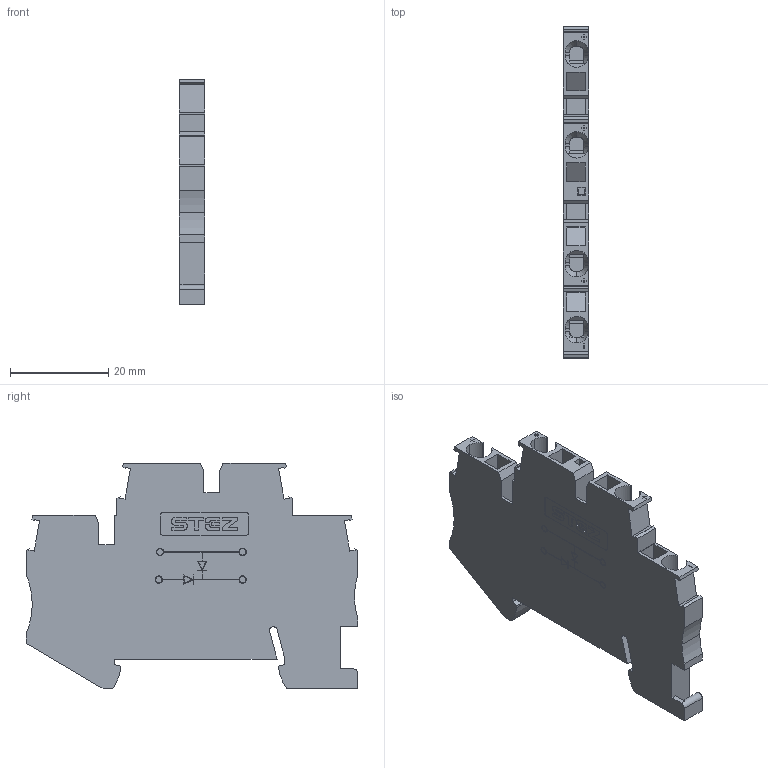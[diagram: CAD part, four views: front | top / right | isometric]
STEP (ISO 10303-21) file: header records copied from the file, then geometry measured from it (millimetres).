
FILE_DESCRIPTION(('TFLEX Exchange Step'),'2;1');
FILE_NAME('10200076 КНЗ2,5-2-Д В-НЛ НП-НЛ.stp', '2024-02-27T16:42:36+03:00',('APolyakov'),('Unknown organisation'),'TFLEX Exchange 2023.2','T-FLEX CAD','Unknown authorisation');
FILE_SCHEMA( ('AUTOMOTIVE_DESIGN { 1 0 10303 214 1 1 1 1 }') );
Length unit declared in the file: millimetre
Products named in the file (1): Тело_1:1
Bounding box: 5.15 x 67.55 x 45.85 mm (x, y, z)
Volume: 10419 mm3; surface area: 7664.4 mm2
Topology: 1 solids, 1 shells, 542 faces, 1535 edges, 1018 vertices
Faces by surface type: plane 307, cylinder 219, cone 16
Entity records: 18714 total; most frequent: CARTESIAN_POINT 4349, ORIENTED_EDGE 3070, DIRECTION 2967, EDGE_CURVE 1535, VERTEX_POINT 1018, VECTOR 1011, LINE 1011, AXIS2_PLACEMENT_3D 978
